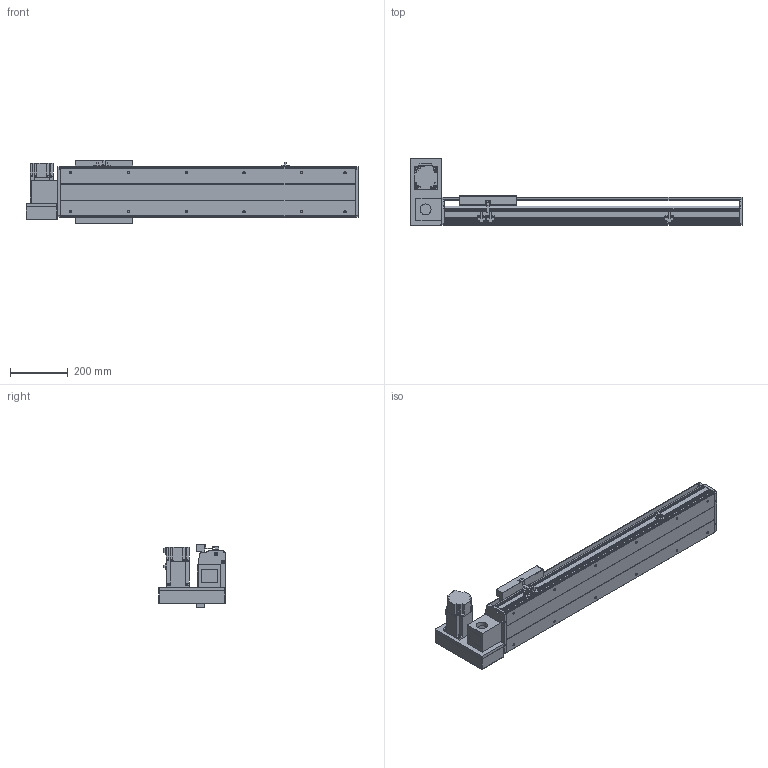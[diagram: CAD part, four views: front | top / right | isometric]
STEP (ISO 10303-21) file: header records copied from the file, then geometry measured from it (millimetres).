
FILE_DESCRIPTION(/* description */ ('STEP AP214'),/* implementation_level */ '2;1');
FILE_NAME(/* name */ 'PBS200-P40-S650-LU-T75-C1-N(0)',/* time_stamp */ '2022-06-11T08:59:15+02:00',/* author */ ('License CC BY-ND 4.0'),/* organization */ ('CADENAS'),/* preprocessor_version */ 'ST-DEVELOPER v18.102',/* originating_system */ 'PARTsolutions',/* authorisation */ ' ');
FILE_SCHEMA (('AUTOMOTIVE_DESIGN {1 0 10303 214 3 1 1}'));
Length unit declared in the file: millimetre
Products named in the file (7): PBS200-P40-S650-LU-T75-C1-N(0); PBS200_sensor; PBS200_plant; PBS200_sliser; T75-p1; PBS200T-LU_motors; PBS200-S650()_body
Assembly tree (8 placements, depth 2):
  PBS200-P40-S650-LU-T75-C1-N(0)
    PBS200_sensor  x3
    PBS200_plant
    PBS200_sliser
    T75-p1
    PBS200T-LU_motors
    PBS200-S650()_body
Bounding box: 1150 x 231 x 221 mm (x, y, z)
Volume: 9051852.1 mm3; surface area: 1474894.9 mm2
Topology: 8 solids, 8 shells, 908 faces, 2354 edges, 1536 vertices
Faces by surface type: plane 570, cylinder 294, cone 44
Full cylindrical faces by diameter (mm): 2.459 x6, 3.242 x4, 4.5 x6, 4.917 x4, 5 x6, 6 x7, 6.6 x8, 6.647 x16, 8 x6, 10 x4, 12 x8, 38 x2, 40 x1, 70 x1
Entity records: 24341 total; most frequent: DIRECTION 4279, CARTESIAN_POINT 4156, ORIENTED_EDGE 3958, EDGE_CURVE 1979, AXIS2_PLACEMENT_3D 1483, VERTEX_POINT 1360, LINE 1313, VECTOR 1313
